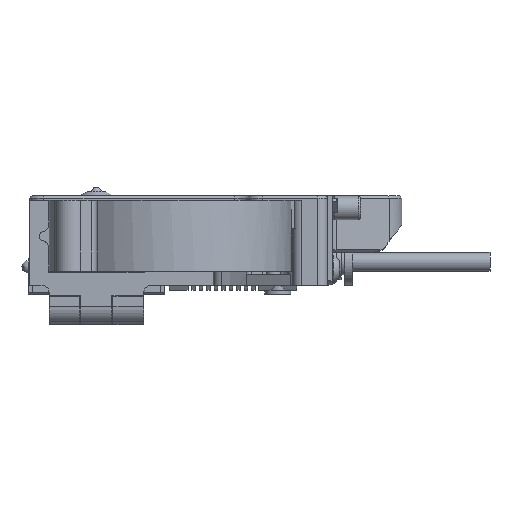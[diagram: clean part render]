
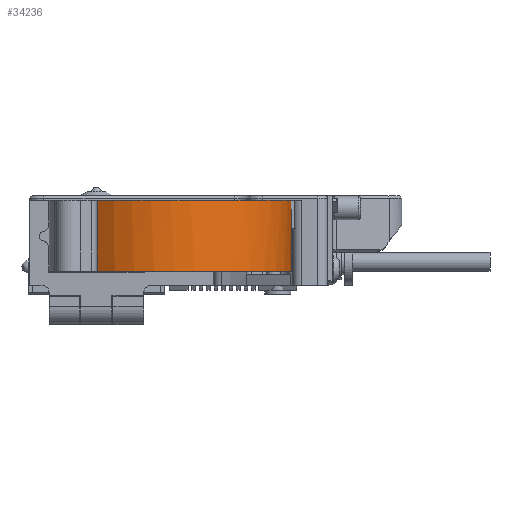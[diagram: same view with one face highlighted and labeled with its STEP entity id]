
A CAD part, front view. The second image highlights one B-rep face of the part: STEP entity #34236.
In plain terms, the highlighted cylindrical face has radius 25.65 mm (diameter 51.3 mm), a partial arc.
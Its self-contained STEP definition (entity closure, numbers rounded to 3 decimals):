
#3932=FACE_OUTER_BOUND('',#5971,.T.);
#5971=EDGE_LOOP('',(#27790,#27791,#27792,#27793,#27794,#27795));
#8354=LINE('',#122049,#10772);
#8355=LINE('',#122053,#10773);
#8356=LINE('',#122056,#10774);
#10772=VECTOR('',#44281,1000.);
#10773=VECTOR('',#44284,1000.);
#10774=VECTOR('',#44287,1000.);
#12499=CIRCLE('',#37376,25.65);
#12517=CIRCLE('',#37401,25.65);
#12518=CIRCLE('',#37402,25.65);
#15301=VERTEX_POINT('',#121961);
#15302=VERTEX_POINT('',#121963);
#15326=VERTEX_POINT('',#122048);
#15327=VERTEX_POINT('',#122050);
#15328=VERTEX_POINT('',#122052);
#15329=VERTEX_POINT('',#122054);
#19668=EDGE_CURVE('',#15301,#15302,#12499,.T.);
#19698=EDGE_CURVE('',#15301,#15326,#8354,.T.);
#19699=EDGE_CURVE('',#15327,#15326,#12517,.T.);
#19700=EDGE_CURVE('',#15327,#15328,#8355,.T.);
#19701=EDGE_CURVE('',#15328,#15329,#12518,.T.);
#19702=EDGE_CURVE('',#15329,#15302,#8356,.T.);
#27790=ORIENTED_EDGE('',*,*,#19698,.T.);
#27791=ORIENTED_EDGE('',*,*,#19699,.F.);
#27792=ORIENTED_EDGE('',*,*,#19700,.T.);
#27793=ORIENTED_EDGE('',*,*,#19701,.T.);
#27794=ORIENTED_EDGE('',*,*,#19702,.T.);
#27795=ORIENTED_EDGE('',*,*,#19668,.F.);
#32891=CYLINDRICAL_SURFACE('',#37400,25.65);
#34236=ADVANCED_FACE('',(#3932),#32891,.T.);
#37376=AXIS2_PLACEMENT_3D('',#121964,#44220,#44221);
#37400=AXIS2_PLACEMENT_3D('',#122047,#44279,#44280);
#37401=AXIS2_PLACEMENT_3D('',#122051,#44282,#44283);
#37402=AXIS2_PLACEMENT_3D('',#122055,#44285,#44286);
#44220=DIRECTION('center_axis',(0.,1.,0.));
#44221=DIRECTION('ref_axis',(0.,0.,
1.));
#44279=DIRECTION('center_axis',(0.,-1.,0.));
#44280=DIRECTION('ref_axis',(0.,0.,-1.));
#44281=DIRECTION('',(0.,-1.,0.));
#44282=DIRECTION('center_axis',(0.,-1.,0.));
#44283=DIRECTION('ref_axis',(0.,0.,-1.));
#44284=DIRECTION('',(0.,-1.,0.));
#44285=DIRECTION('center_axis',(0.,1.,0.));
#44286=DIRECTION('ref_axis',(0.,0.,1.));
#44287=DIRECTION('',(0.,1.,0.));
#121961=CARTESIAN_POINT('',(23.8,15.,0.));
#121963=CARTESIAN_POINT('',(-17.333,15.,-20.467));
#121964=CARTESIAN_POINT('Origin',(-1.85,15.,-0.017));
#122047=CARTESIAN_POINT('Origin',(-1.85,8.,-0.017));
#122048=CARTESIAN_POINT('',(23.8,2.,0.));
#122049=CARTESIAN_POINT('',(23.8,8.,0.));
#122050=CARTESIAN_POINT('',(23.67,2.,-2.6));
#122051=CARTESIAN_POINT('Origin',(-1.85,2.,-0.017));
#122052=CARTESIAN_POINT('',(23.67,0.,-2.6));
#122053=CARTESIAN_POINT('',(23.67,2.,-2.6));
#122054=CARTESIAN_POINT('',(-17.333,0.,-20.467));
#122055=CARTESIAN_POINT('Origin',(-1.85,0.,-0.017));
#122056=CARTESIAN_POINT('',(-17.333,7.,-20.467));
